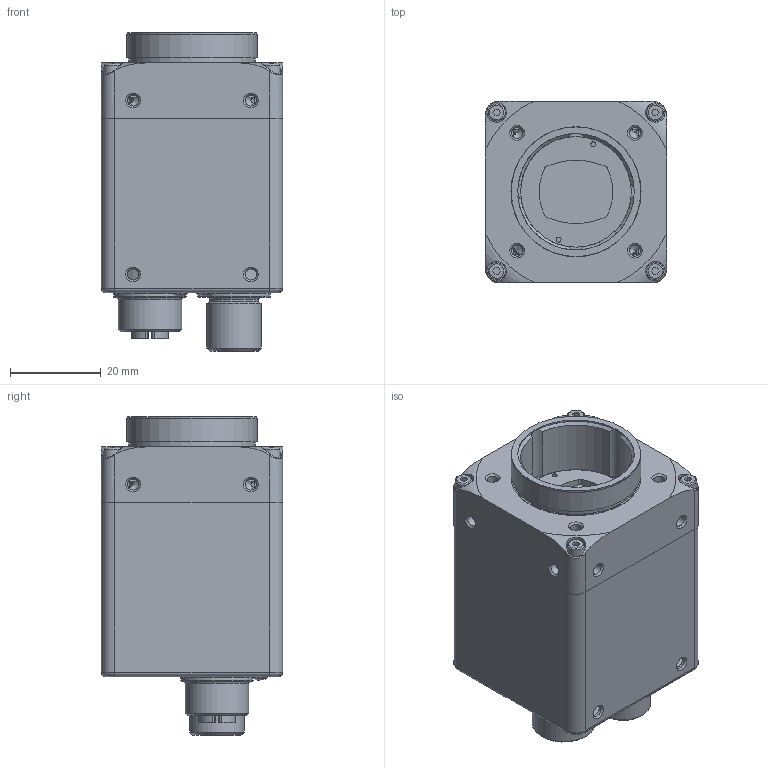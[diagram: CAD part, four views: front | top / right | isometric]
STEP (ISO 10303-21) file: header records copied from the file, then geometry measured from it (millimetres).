
FILE_DESCRIPTION( ( 'Unknown' ), '1' );
FILE_NAME( 'C:/Users/rih/Desktop/11186790_VCXG-32C.I.stp', '14.10.2014', ( 'Unknown' ), ( 'Unknown' ), 'PSStep 15.0.49', 'Unknown', ' ' );
FILE_SCHEMA( ( 'AUTOMOTIVE_DESIGN { 1 0 10303 214 1 1 1 1 }' ) );
Length unit declared in the file: millimetre
Products named in the file (4): 11136125
Bounding box: 40 x 40 x 70.25 mm (x, y, z)
Volume: 26218.2 mm3; surface area: 30643.7 mm2
Topology: 4 solids, 7 shells, 1762 faces, 4385 edges, 2952 vertices
Faces by surface type: plane 841, cylinder 687, torus 92, cone 67, sphere 36, extrusion 20, bspline 19
Full cylindrical faces by diameter (mm): 0.217 x2, 0.6 x238, 0.63 x12, 0.7 x8, 0.75 x1, 0.8 x8, 0.85 x1, 1 x3, 1.1 x14, 1.24 x8, 2 x6, 2.4 x4, 2.459 x26, 2.8 x2, 3.4 x2, 3.8 x4, 8 x2, 8.25 x1, 8.3 x1, 8.4 x1, 8.9 x1, 9 x1, 9.3 x2, 9.4 x2, 10 x1, 10.2 x1, 10.75 x1, 11 x1, 12 x3, 13.3 x2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
Entity records: 66001 total; most frequent: CARTESIAN_POINT 13383, DIRECTION 8176, ORIENTED_EDGE 6972, EDGE_CURVE 3486, AXIS2_PLACEMENT_3D 3300, EDGE_LOOP 2640, VERTEX_POINT 2592, FACE_OUTER_BOUND 2198
